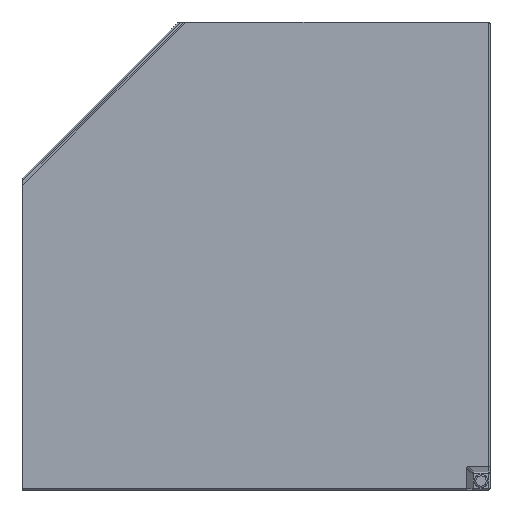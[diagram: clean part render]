
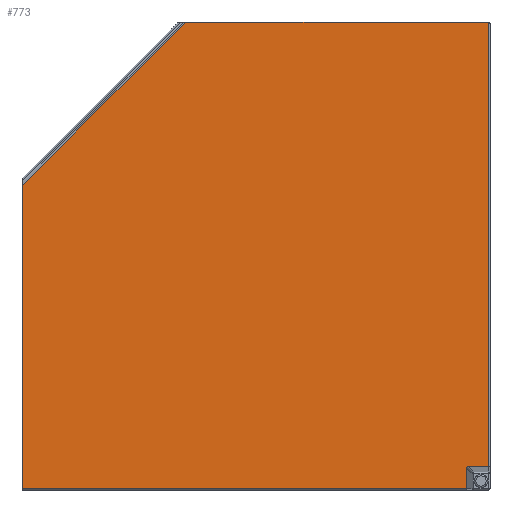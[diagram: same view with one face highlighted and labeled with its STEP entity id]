
A CAD part, front view. The second image highlights one B-rep face of the part: STEP entity #773.
In plain terms, the highlighted planar face has unit normal (0, -1, 0).
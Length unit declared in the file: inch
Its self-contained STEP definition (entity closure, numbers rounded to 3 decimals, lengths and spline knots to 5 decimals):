
#31=ELLIPSE('',#857,0.10006,0.1);
#44=PLANE('',#856);
#82=FACE_OUTER_BOUND('',#133,.T.);
#133=EDGE_LOOP('',(#591,#592,#593,#594,#595,#596,#597,#598,#599));
#188=LINE('',#1246,#255);
#190=LINE('',#1252,#257);
#194=LINE('',#1262,#261);
#195=LINE('',#1266,#262);
#196=LINE('',#1268,#263);
#197=LINE('',#1270,#264);
#198=LINE('',#1272,#265);
#199=LINE('',#1273,#266);
#255=VECTOR('',#1002,0.3937);
#257=VECTOR('',#1008,0.3937);
#261=VECTOR('',#1016,0.3937);
#262=VECTOR('',#1019,0.3937);
#263=VECTOR('',#1020,0.3937);
#264=VECTOR('',#1021,0.3937);
#265=VECTOR('',#1022,0.3937);
#266=VECTOR('',#1023,0.3937);
#352=VERTEX_POINT('',#1243);
#353=VERTEX_POINT('',#1245);
#355=VERTEX_POINT('',#1251);
#359=VERTEX_POINT('',#1261);
#360=VERTEX_POINT('',#1263);
#361=VERTEX_POINT('',#1265);
#362=VERTEX_POINT('',#1267);
#363=VERTEX_POINT('',#1269);
#364=VERTEX_POINT('',#1271);
#434=EDGE_CURVE('',#352,#353,#188,.T.);
#437=EDGE_CURVE('',#355,#353,#190,.T.);
#442=EDGE_CURVE('',#352,#359,#194,.T.);
#443=EDGE_CURVE('',#360,#359,#31,.F.);
#444=EDGE_CURVE('',#360,#361,#195,.T.);
#445=EDGE_CURVE('',#362,#361,#196,.T.);
#446=EDGE_CURVE('',#362,#363,#197,.T.);
#447=EDGE_CURVE('',#364,#363,#198,.T.);
#448=EDGE_CURVE('',#355,#364,#199,.T.);
#591=ORIENTED_EDGE('',*,*,#434,.F.);
#592=ORIENTED_EDGE('',*,*,#442,.T.);
#593=ORIENTED_EDGE('',*,*,#443,.F.);
#594=ORIENTED_EDGE('',*,*,#444,.T.);
#595=ORIENTED_EDGE('',*,*,#445,.F.);
#596=ORIENTED_EDGE('',*,*,#446,.T.);
#597=ORIENTED_EDGE('',*,*,#447,.F.);
#598=ORIENTED_EDGE('',*,*,#448,.F.);
#599=ORIENTED_EDGE('',*,*,#437,.T.);
#773=ADVANCED_FACE('',(#82),#44,.T.);
#856=AXIS2_PLACEMENT_3D('',#1260,#1014,#1015);
#857=AXIS2_PLACEMENT_3D('',#1264,#1017,#1018);
#1002=DIRECTION('',(-1.,0.,0.));
#1008=DIRECTION('',(0.,0.,-1.));
#1014=DIRECTION('center_axis',(0.,-1.,0.));
#1015=DIRECTION('ref_axis',(0.,0.,-1.));
#1016=DIRECTION('',(0.,0.,1.));
#1017=DIRECTION('center_axis',(0.,1.,0.));
#1018=DIRECTION('ref_axis',(-0.707,0.,0.707));
#1019=DIRECTION('',(1.,0.,0.));
#1020=DIRECTION('',(0.,0.,-1.));
#1021=DIRECTION('',(-1.,0.,0.));
#1022=DIRECTION('',(0.707,0.,0.707));
#1023=DIRECTION('',(0.709,0.,0.705));
#1243=CARTESIAN_POINT('',(50.65,14.125,-103.77486));
#1245=CARTESIAN_POINT('',(22.15,14.125,-103.77486));
#1246=CARTESIAN_POINT('',(29.65,14.125,-103.77486));
#1251=CARTESIAN_POINT('',(22.15,14.125,-84.34104));
#1252=CARTESIAN_POINT('',(22.15,14.125,-103.87486));
#1260=CARTESIAN_POINT('Origin',(37.15,14.125,-88.87486));
#1261=CARTESIAN_POINT('',(50.65,14.125,-102.46147));
#1262=CARTESIAN_POINT('',(50.65,14.125,-88.87486));
#1263=CARTESIAN_POINT('',(50.74907,14.125,-102.37486));
#1264=CARTESIAN_POINT('Origin',(50.74913,14.125,-102.47489));
#1265=CARTESIAN_POINT('',(52.05,14.125,-102.37486));
#1266=CARTESIAN_POINT('',(44.65,14.125,-102.37486));
#1267=CARTESIAN_POINT('',(52.05,14.125,-73.87486));
#1268=CARTESIAN_POINT('',(52.05,14.125,-96.37486));
#1269=CARTESIAN_POINT('',(32.64497,14.125,-73.87486));
#1270=CARTESIAN_POINT('',(32.50355,14.125,-73.87486));
#1271=CARTESIAN_POINT('',(27.39739,14.125,-79.12244));
#1272=CARTESIAN_POINT('',(29.98588,14.125,-76.53396));
#1273=CARTESIAN_POINT('',(27.41084,14.125,-79.10906));
